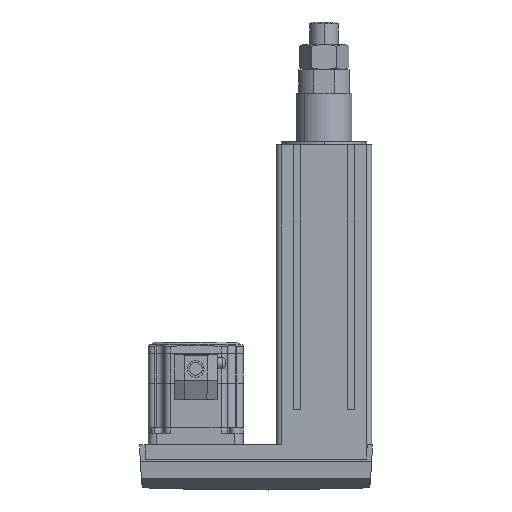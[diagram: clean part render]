
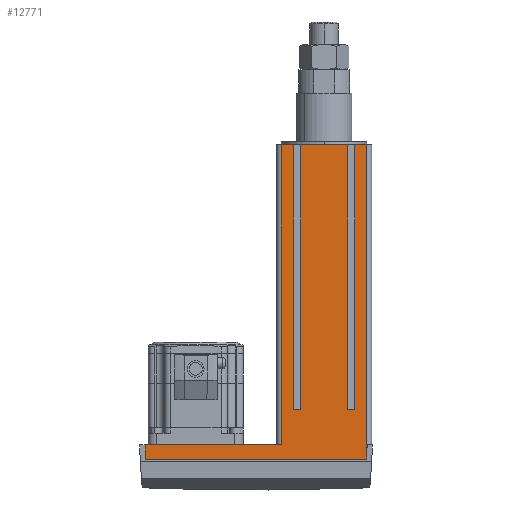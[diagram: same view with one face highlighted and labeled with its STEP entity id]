
A CAD part, left-side view. The second image highlights one B-rep face of the part: STEP entity #12771.
In plain terms, the highlighted planar face has unit normal (-1, 0, 0).
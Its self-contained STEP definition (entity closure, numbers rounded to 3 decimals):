
#12692 = EDGE_LOOP ( 'NONE', ( #12770, #12776, #12786, #12824, #12780, #12785, #12784, #12808, #12815, #12830, #12802, #12811, #12838, #12837, #12848, #12792, #12834 ) ) ;
#12708 = VERTEX_POINT ( 'NONE', #16192 ) ;
#12715 = VERTEX_POINT ( 'NONE', #16211 ) ;
#12747 = EDGE_CURVE ( 'NONE', #12715, #12708, #16277, .T. ) ;
#12770 = ORIENTED_EDGE ( 'NONE', *, *, #12747, .F. ) ;
#12771 = ADVANCED_FACE ( 'NONE', ( #16314 ), #16219, .F. ) ;
#12773 = VERTEX_POINT ( 'NONE', #16199 ) ;
#12774 = EDGE_CURVE ( 'NONE', #12807, #12787, #16226, .T. ) ;
#12776 = ORIENTED_EDGE ( 'NONE', *, *, #12833, .F. ) ;
#12777 = VERTEX_POINT ( 'NONE', #16291 ) ;
#12778 = EDGE_CURVE ( 'NONE', #12805, #12813, #16240, .T. ) ;
#12779 = EDGE_CURVE ( 'NONE', #12773, #12817, #16318, .T. ) ;
#12780 = ORIENTED_EDGE ( 'NONE', *, *, #12806, .T. ) ;
#12781 = VERTEX_POINT ( 'NONE', #16227 ) ;
#12784 = ORIENTED_EDGE ( 'NONE', *, *, #12790, .F. ) ;
#12785 = ORIENTED_EDGE ( 'NONE', *, *, #12818, .T. ) ;
#12786 = ORIENTED_EDGE ( 'NONE', *, *, #12823, .F. ) ;
#12787 = VERTEX_POINT ( 'NONE', #16230 ) ;
#12790 = EDGE_CURVE ( 'NONE', #12814, #12819, #16247, .T. ) ;
#12791 = VERTEX_POINT ( 'NONE', #16396 ) ;
#12792 = ORIENTED_EDGE ( 'NONE', *, *, #12827, .T. ) ;
#12801 = VERTEX_POINT ( 'NONE', #16335 ) ;
#12802 = ORIENTED_EDGE ( 'NONE', *, *, #12810, .F. ) ;
#12803 = EDGE_CURVE ( 'NONE', #12831, #12801, #16321, .T. ) ;
#12804 = EDGE_CURVE ( 'NONE', #12831, #12805, #16341, .T. ) ;
#12805 = VERTEX_POINT ( 'NONE', #16336 ) ;
#12806 = EDGE_CURVE ( 'NONE', #12807, #12809, #16337, .T. ) ;
#12807 = VERTEX_POINT ( 'NONE', #16382 ) ;
#12808 = ORIENTED_EDGE ( 'NONE', *, *, #12812, .F. ) ;
#12809 = VERTEX_POINT ( 'NONE', #16338 ) ;
#12810 = EDGE_CURVE ( 'NONE', #12801, #12791, #16378, .T. ) ;
#12811 = ORIENTED_EDGE ( 'NONE', *, *, #12803, .F. ) ;
#12812 = EDGE_CURVE ( 'NONE', #12773, #12814, #16327, .T. ) ;
#12813 = VERTEX_POINT ( 'NONE', #16391 ) ;
#12814 = VERTEX_POINT ( 'NONE', #16390 ) ;
#12815 = ORIENTED_EDGE ( 'NONE', *, *, #12779, .T. ) ;
#12816 = EDGE_CURVE ( 'NONE', #12817, #12791, #16372, .T. ) ;
#12817 = VERTEX_POINT ( 'NONE', #16323 ) ;
#12818 = EDGE_CURVE ( 'NONE', #12809, #12819, #16373, .T. ) ;
#12819 = VERTEX_POINT ( 'NONE', #16375 ) ;
#12823 = EDGE_CURVE ( 'NONE', #12787, #12781, #16356, .T. ) ;
#12824 = ORIENTED_EDGE ( 'NONE', *, *, #12774, .F. ) ;
#12827 = EDGE_CURVE ( 'NONE', #12836, #12777, #16362, .T. ) ;
#12829 = EDGE_CURVE ( 'NONE', #12708, #12777, #16350, .T. ) ;
#12830 = ORIENTED_EDGE ( 'NONE', *, *, #12816, .T. ) ;
#12831 = VERTEX_POINT ( 'NONE', #16345 ) ;
#12832 = EDGE_CURVE ( 'NONE', #12813, #12836, #16366, .T. ) ;
#12833 = EDGE_CURVE ( 'NONE', #12781, #12715, #16401, .T. ) ;
#12834 = ORIENTED_EDGE ( 'NONE', *, *, #12829, .F. ) ;
#12836 = VERTEX_POINT ( 'NONE', #16398 ) ;
#12837 = ORIENTED_EDGE ( 'NONE', *, *, #12778, .T. ) ;
#12838 = ORIENTED_EDGE ( 'NONE', *, *, #12804, .T. ) ;
#12848 = ORIENTED_EDGE ( 'NONE', *, *, #12832, .T. ) ;
#16062 = CARTESIAN_POINT ( 'NONE',  ( -30., 113., -9.2 ) ) ;
#16068 = DIRECTION ( 'NONE',  ( 0., 0., -1. ) ) ;
#16078 = VECTOR ( 'NONE', #16068, 1000. ) ;
#16191 = VECTOR ( 'NONE', #16252, 1000. ) ;
#16192 = CARTESIAN_POINT ( 'NONE',  ( -30., -27., -9.2 ) ) ;
#16199 = CARTESIAN_POINT ( 'NONE',  ( -30., 14.75, 189.1 ) ) ;
#16211 = CARTESIAN_POINT ( 'NONE',  ( -30., -27., -2. ) ) ;
#16219 = PLANE ( 'NONE',  #16313 ) ;
#16224 = DIRECTION ( 'NONE',  ( 0., -1., 0. ) ) ;
#16225 = VECTOR ( 'NONE', #16224, 1000. ) ;
#16226 = LINE ( 'NONE', #16293, #16225 ) ;
#16227 = CARTESIAN_POINT ( 'NONE',  ( -30., -27., -0.3 ) ) ;
#16228 = DIRECTION ( 'NONE',  ( 0., -1., 0. ) ) ;
#16229 = DIRECTION ( 'NONE',  ( 1., 0., 0. ) ) ;
#16230 = CARTESIAN_POINT ( 'NONE',  ( -30., -27., 189.1 ) ) ;
#16240 = LINE ( 'NONE', #16253, #16191 ) ;
#16241 = VECTOR ( 'NONE', #16287, 1000. ) ;
#16244 = DIRECTION ( 'NONE',  ( 0., 0., -1. ) ) ;
#16245 = VECTOR ( 'NONE', #16244, 1000. ) ;
#16246 = CARTESIAN_POINT ( 'NONE',  ( -30., -14.75, 1771.1 ) ) ;
#16247 = LINE ( 'NONE', #16246, #16245 ) ;
#16252 = DIRECTION ( 'NONE',  ( 0., 1., 0. ) ) ;
#16253 = CARTESIAN_POINT ( 'NONE',  ( -30., -1637., 0. ) ) ;
#16277 = LINE ( 'NONE', #16288, #16241 ) ;
#16287 = DIRECTION ( 'NONE',  ( 0., 0., -1. ) ) ;
#16288 = CARTESIAN_POINT ( 'NONE',  ( -30., -27., 0. ) ) ;
#16291 = CARTESIAN_POINT ( 'NONE',  ( -30., 113., -9.2 ) ) ;
#16293 = CARTESIAN_POINT ( 'NONE',  ( -30., -30., 189.1 ) ) ;
#16312 = CARTESIAN_POINT ( 'NONE',  ( -30., -1637., -9.2 ) ) ;
#16313 = AXIS2_PLACEMENT_3D ( 'NONE', #16312, #16229, #16228 ) ;
#16314 = FACE_OUTER_BOUND ( 'NONE', #12692, .T. ) ;
#16315 = DIRECTION ( 'NONE',  ( 0., 0., -1. ) ) ;
#16316 = VECTOR ( 'NONE', #16315, 1000. ) ;
#16317 = CARTESIAN_POINT ( 'NONE',  ( -30., 14.75, 1771.1 ) ) ;
#16318 = LINE ( 'NONE', #16317, #16316 ) ;
#16321 = LINE ( 'NONE', #16328, #16329 ) ;
#16323 = CARTESIAN_POINT ( 'NONE',  ( -30., 14.75, 22.1 ) ) ;
#16324 = DIRECTION ( 'NONE',  ( 0., 0., -1. ) ) ;
#16325 = VECTOR ( 'NONE', #16324, 1000. ) ;
#16327 = LINE ( 'NONE', #16388, #16387 ) ;
#16328 = CARTESIAN_POINT ( 'NONE',  ( -30., -30., 189.1 ) ) ;
#16329 = VECTOR ( 'NONE', #16394, 1000. ) ;
#16335 = CARTESIAN_POINT ( 'NONE',  ( -30., 19.25, 189.1 ) ) ;
#16336 = CARTESIAN_POINT ( 'NONE',  ( -30., 27., 0. ) ) ;
#16337 = LINE ( 'NONE', #16381, #16380 ) ;
#16338 = CARTESIAN_POINT ( 'NONE',  ( -30., -19.25, 22.1 ) ) ;
#16339 = DIRECTION ( 'NONE',  ( 0., 0., -1. ) ) ;
#16340 = VECTOR ( 'NONE', #16339, 1000. ) ;
#16341 = LINE ( 'NONE', #16395, #16340 ) ;
#16345 = CARTESIAN_POINT ( 'NONE',  ( -30., 27., 189.1 ) ) ;
#16346 = DIRECTION ( 'NONE',  ( 0., 1., 0. ) ) ;
#16347 = VECTOR ( 'NONE', #16346, 1000. ) ;
#16350 = LINE ( 'NONE', #16374, #16347 ) ;
#16351 = DIRECTION ( 'NONE',  ( 0., 0., -1. ) ) ;
#16354 = DIRECTION ( 'NONE',  ( 0., 0., -1. ) ) ;
#16355 = VECTOR ( 'NONE', #16354, 1000. ) ;
#16356 = LINE ( 'NONE', #16360, #16355 ) ;
#16360 = CARTESIAN_POINT ( 'NONE',  ( -30., -27., 0. ) ) ;
#16362 = LINE ( 'NONE', #16377, #16376 ) ;
#16363 = DIRECTION ( 'NONE',  ( 0., 1., 0. ) ) ;
#16364 = VECTOR ( 'NONE', #16363, 1000. ) ;
#16365 = CARTESIAN_POINT ( 'NONE',  ( -30., 30., 22.1 ) ) ;
#16366 = LINE ( 'NONE', #16062, #16078 ) ;
#16369 = DIRECTION ( 'NONE',  ( 0., 1., 0. ) ) ;
#16370 = VECTOR ( 'NONE', #16369, 1000. ) ;
#16371 = CARTESIAN_POINT ( 'NONE',  ( -30., 30., 22.1 ) ) ;
#16372 = LINE ( 'NONE', #16371, #16370 ) ;
#16373 = LINE ( 'NONE', #16365, #16364 ) ;
#16374 = CARTESIAN_POINT ( 'NONE',  ( -30., -1637., -9.2 ) ) ;
#16375 = CARTESIAN_POINT ( 'NONE',  ( -30., -14.75, 22.1 ) ) ;
#16376 = VECTOR ( 'NONE', #16351, 1000. ) ;
#16377 = CARTESIAN_POINT ( 'NONE',  ( -30., 113., -9.2 ) ) ;
#16378 = LINE ( 'NONE', #16393, #16325 ) ;
#16379 = DIRECTION ( 'NONE',  ( 0., 0., -1. ) ) ;
#16380 = VECTOR ( 'NONE', #16379, 1000. ) ;
#16381 = CARTESIAN_POINT ( 'NONE',  ( -30., -19.25, 1771.1 ) ) ;
#16382 = CARTESIAN_POINT ( 'NONE',  ( -30., -19.25, 189.1 ) ) ;
#16386 = DIRECTION ( 'NONE',  ( 0., -1., 0. ) ) ;
#16387 = VECTOR ( 'NONE', #16386, 1000. ) ;
#16388 = CARTESIAN_POINT ( 'NONE',  ( -30., -30., 189.1 ) ) ;
#16390 = CARTESIAN_POINT ( 'NONE',  ( -30., -14.75, 189.1 ) ) ;
#16391 = CARTESIAN_POINT ( 'NONE',  ( -30., 113., 0. ) ) ;
#16393 = CARTESIAN_POINT ( 'NONE',  ( -30., 19.25, 1771.1 ) ) ;
#16394 = DIRECTION ( 'NONE',  ( 0., -1., 0. ) ) ;
#16395 = CARTESIAN_POINT ( 'NONE',  ( -30., 27., 1771.1 ) ) ;
#16396 = CARTESIAN_POINT ( 'NONE',  ( -30., 19.25, 22.1 ) ) ;
#16397 = DIRECTION ( 'NONE',  ( 0., 0., -1. ) ) ;
#16398 = CARTESIAN_POINT ( 'NONE',  ( -30., 113., -0.3 ) ) ;
#16400 = VECTOR ( 'NONE', #16397, 1000. ) ;
#16401 = LINE ( 'NONE', #16405, #16400 ) ;
#16405 = CARTESIAN_POINT ( 'NONE',  ( -30., -27., 0. ) ) ;
